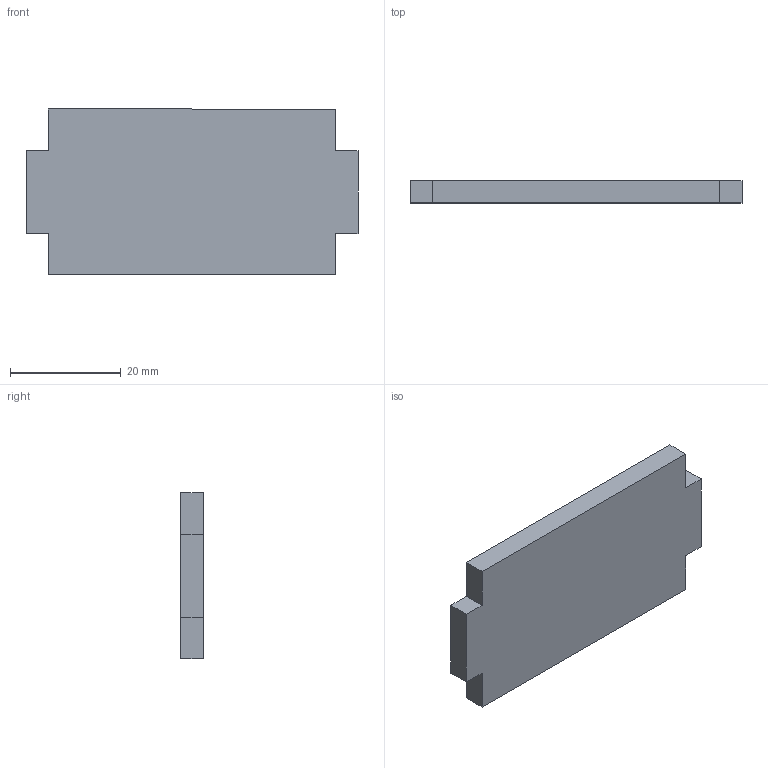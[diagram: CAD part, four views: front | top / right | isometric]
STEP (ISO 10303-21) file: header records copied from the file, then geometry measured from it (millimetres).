
FILE_DESCRIPTION (( 'STEP AP203' ), '1' );
FILE_NAME ('Abstandshalter_mitte.STEP', '2026-04-21T19:39:48', ( '' ), ( '' ), 'SwSTEP 2.0', 'SolidWorks 2025', '' );
FILE_SCHEMA (( 'CONFIG_CONTROL_DESIGN' ));
Length unit declared in the file: millimetre
Products named in the file (1): Abstandshalter_mitte
Bounding box: 60 x 4 x 30 mm (x, y, z)
Volume: 6720 mm3; surface area: 4080 mm2
Topology: 1 solids, 1 shells, 14 faces, 36 edges, 24 vertices
Faces by surface type: plane 14
Entity records: 497 total; most frequent: CARTESIAN_POINT 75, ORIENTED_EDGE 72, DIRECTION 66, VECTOR 36, LINE 36, EDGE_CURVE 36, VERTEX_POINT 24, AXIS2_PLACEMENT_3D 15
